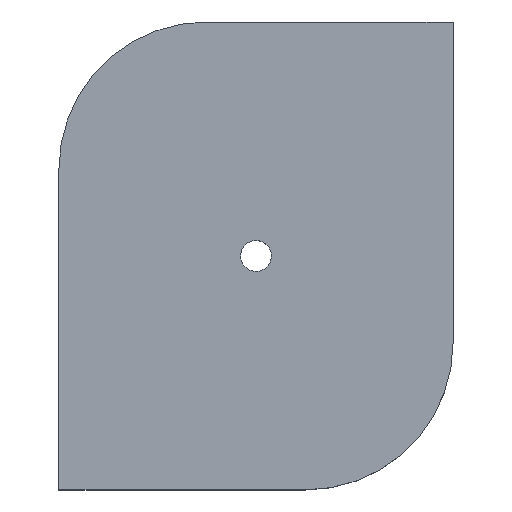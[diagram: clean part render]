
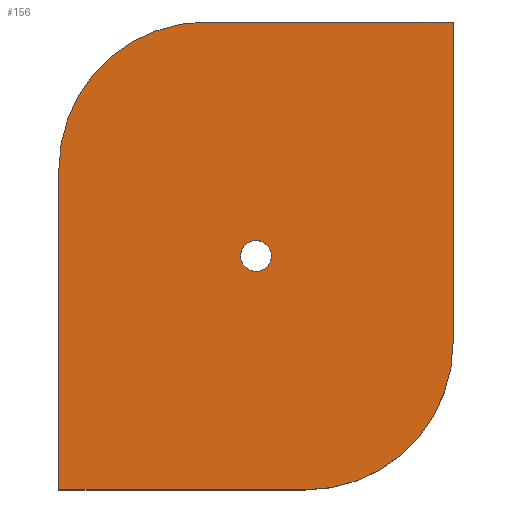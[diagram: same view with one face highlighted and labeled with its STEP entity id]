
A CAD part, top view. The second image highlights one B-rep face of the part: STEP entity #156.
In plain terms, the highlighted planar face has unit normal (0, 0, 1).
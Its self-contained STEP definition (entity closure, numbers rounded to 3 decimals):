
#63=CARTESIAN_POINT('Vertex',(49.825,65.508,22.)) ;
#77=CARTESIAN_POINT('Vertex',(57.175,61.492,22.)) ;
#80=CARTESIAN_POINT('Axis2P3D Location',(53.5,63.5,22.)) ;
#92=CARTESIAN_POINT('Axis2P3D Location',(0.,0.,22.)) ;
#97=CARTESIAN_POINT('Line Origine',(0.,43.5,22.)) ;
#101=CARTESIAN_POINT('Vertex',(0.,87.,22.)) ;
#103=CARTESIAN_POINT('Vertex',(0.,0.,22.)) ;
#106=CARTESIAN_POINT('Line Origine',(33.5,0.,22.)) ;
#110=CARTESIAN_POINT('Vertex',(67.,0.,22.)) ;
#113=CARTESIAN_POINT('Axis2P3D Location',(67.,40.,22.)) ;
#117=CARTESIAN_POINT('Vertex',(107.,40.,22.)) ;
#120=CARTESIAN_POINT('Line Origine',(107.,83.5,22.)) ;
#124=CARTESIAN_POINT('Vertex',(107.,127.,22.)) ;
#127=CARTESIAN_POINT('Line Origine',(73.5,127.,22.)) ;
#131=CARTESIAN_POINT('Vertex',(40.,127.,22.)) ;
#134=CARTESIAN_POINT('Axis2P3D Location',(40.,87.,22.)) ;
#147=CARTESIAN_POINT('Axis2P3D Location',(53.5,63.5,22.)) ;
#81=DIRECTION('Axis2P3D Direction',(0.,-0.,-1.)) ;
#93=DIRECTION('Axis2P3D Direction',(0.,0.,1.)) ;
#94=DIRECTION('Axis2P3D XDirection',(1.,0.,0.)) ;
#98=DIRECTION('Vector Direction',(0.,-1.,0.)) ;
#107=DIRECTION('Vector Direction',(1.,0.,0.)) ;
#114=DIRECTION('Axis2P3D Direction',(0.,0.,1.)) ;
#121=DIRECTION('Vector Direction',(0.,1.,0.)) ;
#128=DIRECTION('Vector Direction',(-1.,0.,0.)) ;
#135=DIRECTION('Axis2P3D Direction',(0.,0.,1.)) ;
#148=DIRECTION('Axis2P3D Direction',(0.,0.,1.)) ;
#82=AXIS2_PLACEMENT_3D('Circle Axis2P3D',#80,#81,$) ;
#95=AXIS2_PLACEMENT_3D('Plane Axis2P3D',#92,#93,#94) ;
#115=AXIS2_PLACEMENT_3D('Circle Axis2P3D',#113,#114,$) ;
#136=AXIS2_PLACEMENT_3D('Circle Axis2P3D',#134,#135,$) ;
#149=AXIS2_PLACEMENT_3D('Circle Axis2P3D',#147,#148,$) ;
#140=ORIENTED_EDGE('',*,*,#105,.T.) ;
#141=ORIENTED_EDGE('',*,*,#112,.T.) ;
#142=ORIENTED_EDGE('',*,*,#119,.F.) ;
#143=ORIENTED_EDGE('',*,*,#126,.T.) ;
#144=ORIENTED_EDGE('',*,*,#133,.T.) ;
#145=ORIENTED_EDGE('',*,*,#138,.F.) ;
#153=ORIENTED_EDGE('',*,*,#151,.F.) ;
#154=ORIENTED_EDGE('',*,*,#84,.F.) ;
#155=FACE_BOUND('',#152,.T.) ;
#99=VECTOR('Line Direction',#98,1.) ;
#108=VECTOR('Line Direction',#107,1.) ;
#122=VECTOR('Line Direction',#121,1.) ;
#129=VECTOR('Line Direction',#128,1.) ;
#156=ADVANCED_FACE('PartBody',(#146,#155),#96,.T.) ;
#83=CIRCLE('generated circle',#82,4.188) ;
#116=CIRCLE('generated circle',#115,40.) ;
#137=CIRCLE('generated circle',#136,40.) ;
#150=CIRCLE('generated circle',#149,4.188) ;
#84=EDGE_CURVE('',#78,#64,#83,.F.) ;
#105=EDGE_CURVE('',#102,#104,#100,.T.) ;
#112=EDGE_CURVE('',#104,#111,#109,.T.) ;
#119=EDGE_CURVE('',#118,#111,#116,.F.) ;
#126=EDGE_CURVE('',#118,#125,#123,.T.) ;
#133=EDGE_CURVE('',#125,#132,#130,.T.) ;
#138=EDGE_CURVE('',#102,#132,#137,.F.) ;
#151=EDGE_CURVE('',#64,#78,#150,.T.) ;
#139=EDGE_LOOP('',(#140,#141,#142,#143,#144,#145)) ;
#152=EDGE_LOOP('',(#153,#154)) ;
#146=FACE_OUTER_BOUND('',#139,.T.) ;
#100=LINE('Line',#97,#99) ;
#109=LINE('Line',#106,#108) ;
#123=LINE('Line',#120,#122) ;
#130=LINE('Line',#127,#129) ;
#96=PLANE('',#95) ;
#64=VERTEX_POINT('',#63) ;
#78=VERTEX_POINT('',#77) ;
#102=VERTEX_POINT('',#101) ;
#104=VERTEX_POINT('',#103) ;
#111=VERTEX_POINT('',#110) ;
#118=VERTEX_POINT('',#117) ;
#125=VERTEX_POINT('',#124) ;
#132=VERTEX_POINT('',#131) ;
